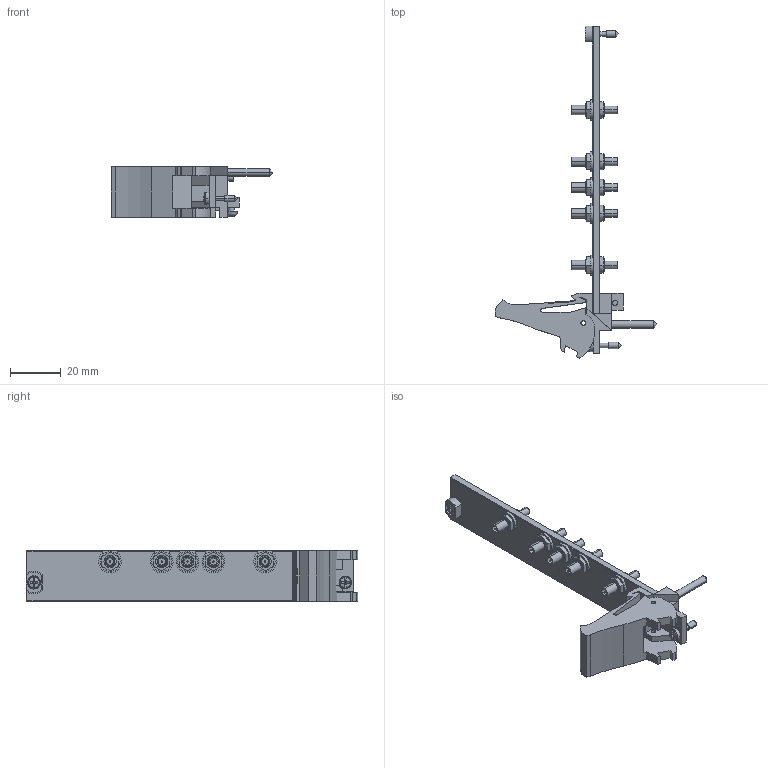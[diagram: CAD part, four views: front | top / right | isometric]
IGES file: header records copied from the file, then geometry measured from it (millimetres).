
Start section:  PTC IGES file: cu_pxi-2555.igs
Global section: file name: cu_pxi-2555.igs; native system: Pro/ENGINEER by Parametric Technology Corporation; preprocessor: 2006080; author: jjorden; organization: Unknown; date: 091005.171549; units: inch
Bounding box: 63.53 x 130.5 x 20.02 mm (x, y, z)
Surface area: 14450.9 mm2 (no closed solid volume)
Topology: 0 solids, 0 shells, 542 faces, 2588 edges, 2580 vertices
Faces by surface type: bspline 332, revolution 210
